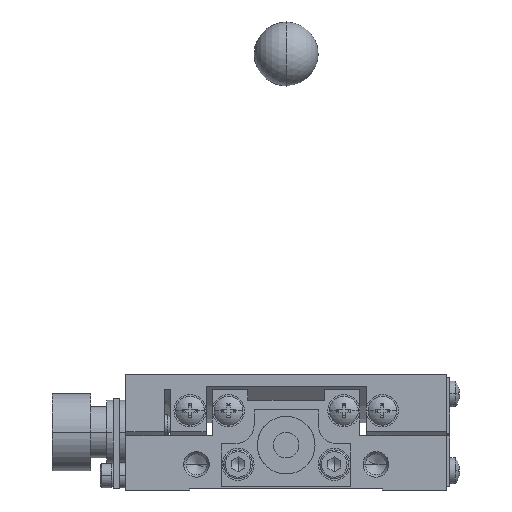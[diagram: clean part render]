
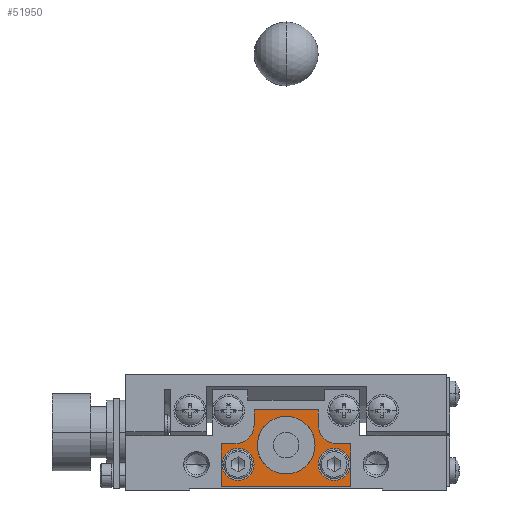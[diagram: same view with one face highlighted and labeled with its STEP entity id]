
A CAD part, left-side view. The second image highlights one B-rep face of the part: STEP entity #51950.
In plain terms, the highlighted planar face has unit normal (-1, 0, 0) as drawn and (0, 1, 0) by its records, which use the part's own axes.
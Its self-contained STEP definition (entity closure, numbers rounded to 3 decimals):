
#10370 = CARTESIAN_POINT ( 'NONE',  ( -10.1, 29., 0.5 ) ) ;
#10384 = CARTESIAN_POINT ( 'NONE',  ( -5., 29., 12.5 ) ) ;
#13751 = VERTEX_POINT ( 'NONE', #34070 ) ;
#13793 = VERTEX_POINT ( 'NONE', #13849 ) ;
#13794 = VERTEX_POINT ( 'NONE', #13851 ) ;
#13813 = VERTEX_POINT ( 'NONE', #13869 ) ;
#13849 = CARTESIAN_POINT ( 'NONE',  ( 7.5, 29., 6.5 ) ) ;
#13851 = CARTESIAN_POINT ( 'NONE',  ( -7.5, 29., 6.5 ) ) ;
#13869 = CARTESIAN_POINT ( 'NONE',  ( 7.5, 29., 1.5 ) ) ;
#14518 = FACE_BOUND ( 'NONE', #21215, .T. ) ;
#14524 = FACE_BOUND ( 'NONE', #21240, .T. ) ;
#14526 = FACE_OUTER_BOUND ( 'NONE', #21218, .T. ) ;
#14530 = CARTESIAN_POINT ( 'NONE',  ( 8., 29., 10.2 ) ) ;
#14531 = FACE_BOUND ( 'NONE', #21212, .T. ) ;
#14532 = PLANE ( 'NONE',  #18714 ) ;
#14533 = DIRECTION ( 'NONE',  ( 0., -1., 0. ) ) ;
#14534 = DIRECTION ( 'NONE',  ( 1., 0., 0. ) ) ;
#18635 = CIRCLE ( 'NONE', #18637, 2.5 ) ;
#18637 = AXIS2_PLACEMENT_3D ( 'NONE', #21843, #21844, #21845 ) ;
#18655 = CIRCLE ( 'NONE', #18657, 2.5 ) ;
#18657 = AXIS2_PLACEMENT_3D ( 'NONE', #21908, #21909, #21910 ) ;
#18714 = AXIS2_PLACEMENT_3D ( 'NONE', #14530, #14533, #14534 ) ;
#21212 = EDGE_LOOP ( 'NONE', ( #33397, #33398 ) ) ;
#21215 = EDGE_LOOP ( 'NONE', ( #33399, #33400 ) ) ;
#21218 = EDGE_LOOP ( 'NONE', ( #33387, #33388, #33389, #33390, #33391, #33392, #33393, #33394, #33395, #33396 ) ) ;
#21240 = EDGE_LOOP ( 'NONE', ( #33401, #33402 ) ) ;
#21843 = CARTESIAN_POINT ( 'NONE',  ( 7.5, 29., 4. ) ) ;
#21844 = DIRECTION ( 'NONE',  ( 0., -1., 0. ) ) ;
#21845 = DIRECTION ( 'NONE',  ( 0., 0., -1. ) ) ;
#21908 = CARTESIAN_POINT ( 'NONE',  ( -7.5, 29., 4. ) ) ;
#21909 = DIRECTION ( 'NONE',  ( 0., -1., 0. ) ) ;
#21910 = DIRECTION ( 'NONE',  ( 0., 0., -1. ) ) ;
#24432 = CARTESIAN_POINT ( 'NONE',  ( 0., 29., 10. ) ) ;
#24433 = CARTESIAN_POINT ( 'NONE',  ( 0., 29., 4. ) ) ;
#24624 = CARTESIAN_POINT ( 'NONE',  ( 5., 29., 10.2 ) ) ;
#24625 = CARTESIAN_POINT ( 'NONE',  ( 10.1, 29., 7.2 ) ) ;
#24626 = CARTESIAN_POINT ( 'NONE',  ( 10.1, 29., 0.5 ) ) ;
#24627 = CARTESIAN_POINT ( 'NONE',  ( -10.1, 29., 7.2 ) ) ;
#24628 = CARTESIAN_POINT ( 'NONE',  ( 8., 29., 7.2 ) ) ;
#24637 = CARTESIAN_POINT ( 'NONE',  ( -8., 29., 7.2 ) ) ;
#24641 = CARTESIAN_POINT ( 'NONE',  ( 5., 29., 12.5 ) ) ;
#24642 = CARTESIAN_POINT ( 'NONE',  ( -5., 29., 10.2 ) ) ;
#30213 = VERTEX_POINT ( 'NONE', #24432 ) ;
#30214 = VERTEX_POINT ( 'NONE', #24433 ) ;
#30405 = VERTEX_POINT ( 'NONE', #24624 ) ;
#30406 = VERTEX_POINT ( 'NONE', #24625 ) ;
#30407 = VERTEX_POINT ( 'NONE', #24626 ) ;
#30408 = VERTEX_POINT ( 'NONE', #24627 ) ;
#30409 = VERTEX_POINT ( 'NONE', #24628 ) ;
#30418 = VERTEX_POINT ( 'NONE', #24637 ) ;
#30422 = VERTEX_POINT ( 'NONE', #24641 ) ;
#30423 = VERTEX_POINT ( 'NONE', #24642 ) ;
#33387 = ORIENTED_EDGE ( 'NONE', *, *, #55755, .T. ) ;
#33388 = ORIENTED_EDGE ( 'NONE', *, *, #55754, .T. ) ;
#33389 = ORIENTED_EDGE ( 'NONE', *, *, #55749, .T. ) ;
#33390 = ORIENTED_EDGE ( 'NONE', *, *, #55747, .T. ) ;
#33391 = ORIENTED_EDGE ( 'NONE', *, *, #55745, .T. ) ;
#33392 = ORIENTED_EDGE ( 'NONE', *, *, #55743, .T. ) ;
#33393 = ORIENTED_EDGE ( 'NONE', *, *, #55741, .T. ) ;
#33394 = ORIENTED_EDGE ( 'NONE', *, *, #55739, .T. ) ;
#33395 = ORIENTED_EDGE ( 'NONE', *, *, #55736, .T. ) ;
#33396 = ORIENTED_EDGE ( 'NONE', *, *, #55752, .T. ) ;
#33397 = ORIENTED_EDGE ( 'NONE', *, *, #55734, .T. ) ;
#33398 = ORIENTED_EDGE ( 'NONE', *, *, #51878, .T. ) ;
#33399 = ORIENTED_EDGE ( 'NONE', *, *, #55732, .T. ) ;
#33400 = ORIENTED_EDGE ( 'NONE', *, *, #51896, .T. ) ;
#33401 = ORIENTED_EDGE ( 'NONE', *, *, #56408, .F. ) ;
#33402 = ORIENTED_EDGE ( 'NONE', *, *, #55707, .F. ) ;
#34070 = CARTESIAN_POINT ( 'NONE',  ( -7.5, 29., 1.5 ) ) ;
#35471 = VERTEX_POINT ( 'NONE', #10370 ) ;
#35485 = VERTEX_POINT ( 'NONE', #10384 ) ;
#38287 = LINE ( 'NONE', #38288, #62549 ) ;
#38288 = CARTESIAN_POINT ( 'NONE',  ( 10.1, 29., 7.2 ) ) ;
#38289 = DIRECTION ( 'NONE',  ( 0., 0., -1. ) ) ;
#38293 = LINE ( 'NONE', #38294, #62551 ) ;
#38294 = CARTESIAN_POINT ( 'NONE',  ( 8., 29., 7.2 ) ) ;
#38295 = DIRECTION ( 'NONE',  ( 1., 0., 0. ) ) ;
#38299 = LINE ( 'NONE', #38314, #62540 ) ;
#38300 = CARTESIAN_POINT ( 'NONE',  ( 8., 29., 10.2 ) ) ;
#38301 = DIRECTION ( 'NONE',  ( 0., -1., 0. ) ) ;
#38302 = DIRECTION ( 'NONE',  ( 1., 0., 0. ) ) ;
#38307 = LINE ( 'NONE', #38308, #62557 ) ;
#38308 = CARTESIAN_POINT ( 'NONE',  ( -5., 29., 10.2 ) ) ;
#38309 = DIRECTION ( 'NONE',  ( 0., 0., 1. ) ) ;
#38314 = CARTESIAN_POINT ( 'NONE',  ( 5., 29., 12.5 ) ) ;
#38315 = DIRECTION ( 'NONE',  ( 0., 0., -1. ) ) ;
#38316 = LINE ( 'NONE', #38317, #62560 ) ;
#38317 = CARTESIAN_POINT ( 'NONE',  ( -5., 29., 12.5 ) ) ;
#38318 = DIRECTION ( 'NONE',  ( 1., 0., 0. ) ) ;
#42620 = CARTESIAN_POINT ( 'NONE',  ( 0., 29., 7. ) ) ;
#42621 = DIRECTION ( 'NONE',  ( 0., 1., 0. ) ) ;
#42622 = DIRECTION ( 'NONE',  ( 0., 0., -1. ) ) ;
#44881 = CARTESIAN_POINT ( 'NONE',  ( 0., 29., 7. ) ) ;
#44883 = DIRECTION ( 'NONE',  ( 0., 1., 0. ) ) ;
#44885 = DIRECTION ( 'NONE',  ( 0., 0., -1. ) ) ;
#45134 = CARTESIAN_POINT ( 'NONE',  ( -7.5, 29., 4. ) ) ;
#45136 = DIRECTION ( 'NONE',  ( 0., -1., 0. ) ) ;
#45137 = DIRECTION ( 'NONE',  ( 0., 0., -1. ) ) ;
#45148 = CARTESIAN_POINT ( 'NONE',  ( 7.5, 29., 4. ) ) ;
#45150 = DIRECTION ( 'NONE',  ( 0., -1., 0. ) ) ;
#45152 = DIRECTION ( 'NONE',  ( 0., 0., -1. ) ) ;
#45165 = CARTESIAN_POINT ( 'NONE',  ( -8., 29., 10.2 ) ) ;
#45167 = DIRECTION ( 'NONE',  ( 0., -1., 0. ) ) ;
#45169 = DIRECTION ( 'NONE',  ( 1., 0., 0. ) ) ;
#45181 = LINE ( 'NONE', #45184, #62543 ) ;
#45184 = CARTESIAN_POINT ( 'NONE',  ( -10.1, 29., 7.2 ) ) ;
#45186 = DIRECTION ( 'NONE',  ( 1., 0., 0. ) ) ;
#45195 = LINE ( 'NONE', #45198, #62545 ) ;
#45198 = CARTESIAN_POINT ( 'NONE',  ( -10.1, 29., 0.5 ) ) ;
#45200 = DIRECTION ( 'NONE',  ( 0., 0., 1. ) ) ;
#45209 = LINE ( 'NONE', #45212, #62547 ) ;
#45212 = CARTESIAN_POINT ( 'NONE',  ( 10.1, 29., 0.5 ) ) ;
#45213 = DIRECTION ( 'NONE',  ( -1., 0., 0. ) ) ;
#48076 = CIRCLE ( 'NONE', #48081, 3. ) ;
#48081 = AXIS2_PLACEMENT_3D ( 'NONE', #42620, #42621, #42622 ) ;
#51878 = EDGE_CURVE ( 'NONE', #13793, #13813, #18635, .T. ) ;
#51896 = EDGE_CURVE ( 'NONE', #13794, #13751, #18655, .T. ) ;
#51950 = ADVANCED_FACE ( 'NONE', ( #14526, #14531, #14518, #14524 ), #14532, .F. ) ;
#55707 = EDGE_CURVE ( 'NONE', #30213, #30214, #62485, .T. ) ;
#55732 = EDGE_CURVE ( 'NONE', #13751, #13794, #62531, .T. ) ;
#55734 = EDGE_CURVE ( 'NONE', #13813, #13793, #62534, .T. ) ;
#55736 = EDGE_CURVE ( 'NONE', #30418, #30423, #62538, .T. ) ;
#55739 = EDGE_CURVE ( 'NONE', #30408, #30418, #45181, .T. ) ;
#55741 = EDGE_CURVE ( 'NONE', #35471, #30408, #45195, .T. ) ;
#55743 = EDGE_CURVE ( 'NONE', #30407, #35471, #45209, .T. ) ;
#55745 = EDGE_CURVE ( 'NONE', #30406, #30407, #38287, .T. ) ;
#55747 = EDGE_CURVE ( 'NONE', #30409, #30406, #38293, .T. ) ;
#55749 = EDGE_CURVE ( 'NONE', #30405, #30409, #62553, .T. ) ;
#55752 = EDGE_CURVE ( 'NONE', #30423, #35485, #38307, .T. ) ;
#55754 = EDGE_CURVE ( 'NONE', #30422, #30405, #38299, .T. ) ;
#55755 = EDGE_CURVE ( 'NONE', #35485, #30422, #38316, .T. ) ;
#56408 = EDGE_CURVE ( 'NONE', #30214, #30213, #48076, .T. ) ;
#62485 = CIRCLE ( 'NONE', #62492, 3. ) ;
#62492 = AXIS2_PLACEMENT_3D ( 'NONE', #44881, #44883, #44885 ) ;
#62531 = CIRCLE ( 'NONE', #62533, 2.5 ) ;
#62533 = AXIS2_PLACEMENT_3D ( 'NONE', #45134, #45136, #45137 ) ;
#62534 = CIRCLE ( 'NONE', #62537, 2.5 ) ;
#62537 = AXIS2_PLACEMENT_3D ( 'NONE', #45148, #45150, #45152 ) ;
#62538 = CIRCLE ( 'NONE', #62541, 3. ) ;
#62540 = VECTOR ( 'NONE', #38315, 1000. ) ;
#62541 = AXIS2_PLACEMENT_3D ( 'NONE', #45165, #45167, #45169 ) ;
#62543 = VECTOR ( 'NONE', #45186, 1000. ) ;
#62545 = VECTOR ( 'NONE', #45200, 1000. ) ;
#62547 = VECTOR ( 'NONE', #45213, 1000. ) ;
#62549 = VECTOR ( 'NONE', #38289, 1000. ) ;
#62551 = VECTOR ( 'NONE', #38295, 1000. ) ;
#62553 = CIRCLE ( 'NONE', #62555, 3. ) ;
#62555 = AXIS2_PLACEMENT_3D ( 'NONE', #38300, #38301, #38302 ) ;
#62557 = VECTOR ( 'NONE', #38309, 1000. ) ;
#62560 = VECTOR ( 'NONE', #38318, 1000. ) ;
